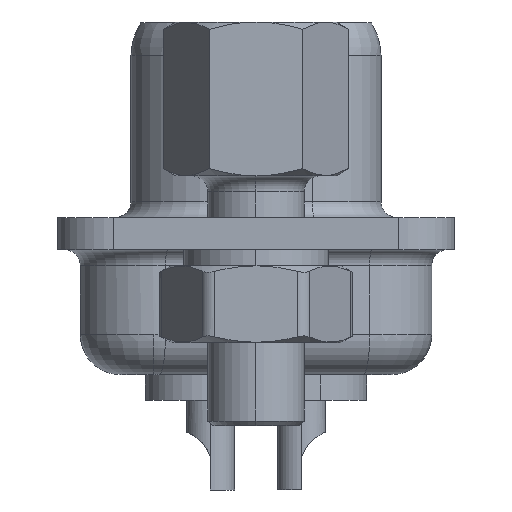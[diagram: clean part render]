
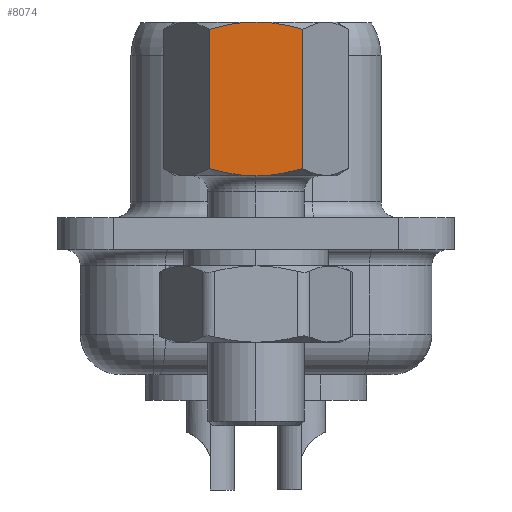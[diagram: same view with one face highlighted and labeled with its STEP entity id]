
A CAD part, left-side view. The second image highlights one B-rep face of the part: STEP entity #8074.
In plain terms, the highlighted planar face has unit normal (-1, 0, 0).
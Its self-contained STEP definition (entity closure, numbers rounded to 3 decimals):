
#66 = CARTESIAN_POINT ( 'NONE',  ( -14.995, -1.457, 6.373 ) ) ;
#69 = EDGE_CURVE ( 'NONE', #5895, #9833, #9992, .T. ) ;
#404 = ORIENTED_EDGE ( 'NONE', *, *, #2994, .T. ) ;
#614 = CARTESIAN_POINT ( 'NONE',  ( -14.995, -0.983, 1.902 ) ) ;
#648 = CARTESIAN_POINT ( 'NONE',  ( -14.995, 1.457, 6.6 ) ) ;
#725 = VERTEX_POINT ( 'NONE', #7284 ) ;
#899 = CARTESIAN_POINT ( 'NONE',  ( -14.995, 0.491, 6.579 ) ) ;
#1069 = CARTESIAN_POINT ( 'NONE',  ( -14.995, 0.246, 6.6 ) ) ;
#1123 = CARTESIAN_POINT ( 'NONE',  ( -14.995, -0.983, 6.498 ) ) ;
#1580 = CARTESIAN_POINT ( 'NONE',  ( -14.995, -0.496, 1.822 ) ) ;
#1926 = CARTESIAN_POINT ( 'NONE',  ( -14.995, 0., 6.6 ) ) ;
#2331 = VECTOR ( 'NONE', #10770, 1000. ) ;
#2825 = CARTESIAN_POINT ( 'NONE',  ( -14.995, 1.22, 6.442 ) ) ;
#2868 = CARTESIAN_POINT ( 'NONE',  ( -14.995, 0.977, 6.5 ) ) ;
#2994 = EDGE_CURVE ( 'NONE', #9681, #725, #4921, .T. ) ;
#3048 = CARTESIAN_POINT ( 'NONE',  ( -14.995, -0.496, 6.578 ) ) ;
#3163 = FACE_OUTER_BOUND ( 'NONE', #3944, .T. ) ;
#3417 = CARTESIAN_POINT ( 'NONE',  ( -14.995, -1.221, 1.959 ) ) ;
#3598 = ORIENTED_EDGE ( 'NONE', *, *, #12001, .F. ) ;
#3626 = DIRECTION ( 'NONE',  ( 0., 0., 1. ) ) ;
#3944 = EDGE_LOOP ( 'NONE', ( #5358, #7213, #7282, #3598, #404, #6327 ) ) ;
#3960 = CARTESIAN_POINT ( 'NONE',  ( -14.995, 1.457, 6.373 ) ) ;
#4013 = EDGE_CURVE ( 'NONE', #6659, #12354, #11566, .T. ) ;
#4600 = CARTESIAN_POINT ( 'NONE',  ( -14.995, 0., 1.8 ) ) ;
#4921 = LINE ( 'NONE', #648, #5704 ) ;
#5001 = CARTESIAN_POINT ( 'NONE',  ( -14.995, 0.491, 1.821 ) ) ;
#5358 = ORIENTED_EDGE ( 'NONE', *, *, #4013, .F. ) ;
#5411 = EDGE_CURVE ( 'NONE', #9833, #6659, #7879, .T. ) ;
#5669 = CARTESIAN_POINT ( 'NONE',  ( -14.995, -1.457, 6.6 ) ) ;
#5678 = CARTESIAN_POINT ( 'NONE',  ( -14.995, 0., 6.6 ) ) ;
#5704 = VECTOR ( 'NONE', #9425, 1000. ) ;
#5895 = VERTEX_POINT ( 'NONE', #5678 ) ;
#5953 = CARTESIAN_POINT ( 'NONE',  ( -14.995, -1.221, 6.441 ) ) ;
#6327 = ORIENTED_EDGE ( 'NONE', *, *, #11943, .F. ) ;
#6386 = CARTESIAN_POINT ( 'NONE',  ( -14.995, -1.457, 2.027 ) ) ;
#6635 = DIRECTION ( 'NONE',  ( 1., 0., 0. ) ) ;
#6659 = VERTEX_POINT ( 'NONE', #6386 ) ;
#6949 = CARTESIAN_POINT ( 'NONE',  ( -14.995, 0., 1.8 ) ) ;
#7213 = ORIENTED_EDGE ( 'NONE', *, *, #5411, .F. ) ;
#7282 = ORIENTED_EDGE ( 'NONE', *, *, #69, .F. ) ;
#7284 = CARTESIAN_POINT ( 'NONE',  ( -14.995, 1.457, 2.027 ) ) ;
#7879 = LINE ( 'NONE', #5669, #2331 ) ;
#8074 = ADVANCED_FACE ( 'NONE', ( #3163 ), #8304, .F. ) ;
#8304 = PLANE ( 'NONE',  #9842 ) ;
#8395 = CARTESIAN_POINT ( 'NONE',  ( -14.995, -1.457, 6.6 ) ) ;
#8497 = CARTESIAN_POINT ( 'NONE',  ( -14.995, -0.246, 1.8 ) ) ;
#8941 = CARTESIAN_POINT ( 'NONE',  ( -14.995, 1.457, 2.027 ) ) ;
#9425 = DIRECTION ( 'NONE',  ( 0., 0., -1. ) ) ;
#9564 = CARTESIAN_POINT ( 'NONE',  ( -14.995, 1.457, 6.373 ) ) ;
#9681 = VERTEX_POINT ( 'NONE', #9564 ) ;
#9819 = CARTESIAN_POINT ( 'NONE',  ( -14.995, 0.977, 1.9 ) ) ;
#9833 = VERTEX_POINT ( 'NONE', #10922 ) ;
#9842 = AXIS2_PLACEMENT_3D ( 'NONE', #8395, #6635, #3626 ) ;
#9923 = CARTESIAN_POINT ( 'NONE',  ( -14.995, -0.246, 6.6 ) ) ;
#9975 = CARTESIAN_POINT ( 'NONE',  ( -14.995, 0., 6.6 ) ) ;
#9991 = CARTESIAN_POINT ( 'NONE',  ( -14.995, 0., 1.8 ) ) ;
#9992 = B_SPLINE_CURVE_WITH_KNOTS ( 'NONE', 3,
 ( #9975, #9923, #3048, #1123, #5953, #66 ),
 .UNSPECIFIED., .F., .F.,
 ( 4, 2, 4 ),
 ( 0.004, 0.005, 0.006 ),
 .UNSPECIFIED. ) ;
#10110 = B_SPLINE_CURVE_WITH_KNOTS ( 'NONE', 3,
 ( #3960, #2825, #2868, #899, #1069, #1926 ),
 .UNSPECIFIED., .F., .F.,
 ( 4, 2, 4 ),
 ( 0.003, 0.003, 0.004 ),
 .UNSPECIFIED. ) ;
#10770 = DIRECTION ( 'NONE',  ( 0., 0., -1. ) ) ;
#10922 = CARTESIAN_POINT ( 'NONE',  ( -14.995, -1.457, 6.373 ) ) ;
#11040 = B_SPLINE_CURVE_WITH_KNOTS ( 'NONE', 3,
 ( #6949, #11913, #5001, #9819, #12760, #8941 ),
 .UNSPECIFIED., .F., .F.,
 ( 4, 2, 4 ),
 ( 0.002, 0.003, 0.004 ),
 .UNSPECIFIED. ) ;
#11566 = B_SPLINE_CURVE_WITH_KNOTS ( 'NONE', 3,
 ( #12412, #3417, #614, #1580, #8497, #4600 ),
 .UNSPECIFIED., .F., .F.,
 ( 4, 2, 4 ),
 ( 0.001, 0.002, 0.002 ),
 .UNSPECIFIED. ) ;
#11913 = CARTESIAN_POINT ( 'NONE',  ( -14.995, 0.246, 1.8 ) ) ;
#11943 = EDGE_CURVE ( 'NONE', #12354, #725, #11040, .T. ) ;
#12001 = EDGE_CURVE ( 'NONE', #9681, #5895, #10110, .T. ) ;
#12354 = VERTEX_POINT ( 'NONE', #9991 ) ;
#12412 = CARTESIAN_POINT ( 'NONE',  ( -14.995, -1.457, 2.027 ) ) ;
#12760 = CARTESIAN_POINT ( 'NONE',  ( -14.995, 1.22, 1.958 ) ) ;
